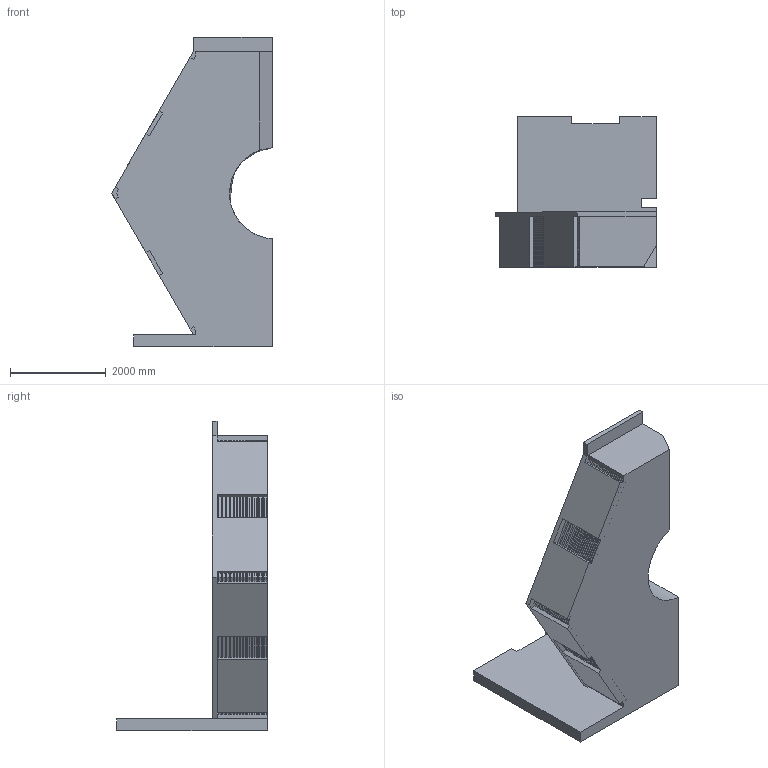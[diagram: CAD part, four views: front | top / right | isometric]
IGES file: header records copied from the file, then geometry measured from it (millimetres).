
Start section:  PTC IGES file: fr_bkwd_dr_rt.igs
Global section: file name: fr_bkwd_dr_rt.igs; native system: Pro/ENGINEER by Parametric Technology Corporation; preprocessor: 1999260; author: oshatz; organization: Unknown; date: 000922.101752; units: millimetre
Bounding box: 3356.8 x 3150 x 6468 mm (x, y, z)
Surface area: 93044088.3 mm2 (no closed solid volume)
Topology: 0 solids, 0 shells, 307 faces, 1980 edges, 1980 vertices
Faces by surface type: bspline 306, revolution 1
